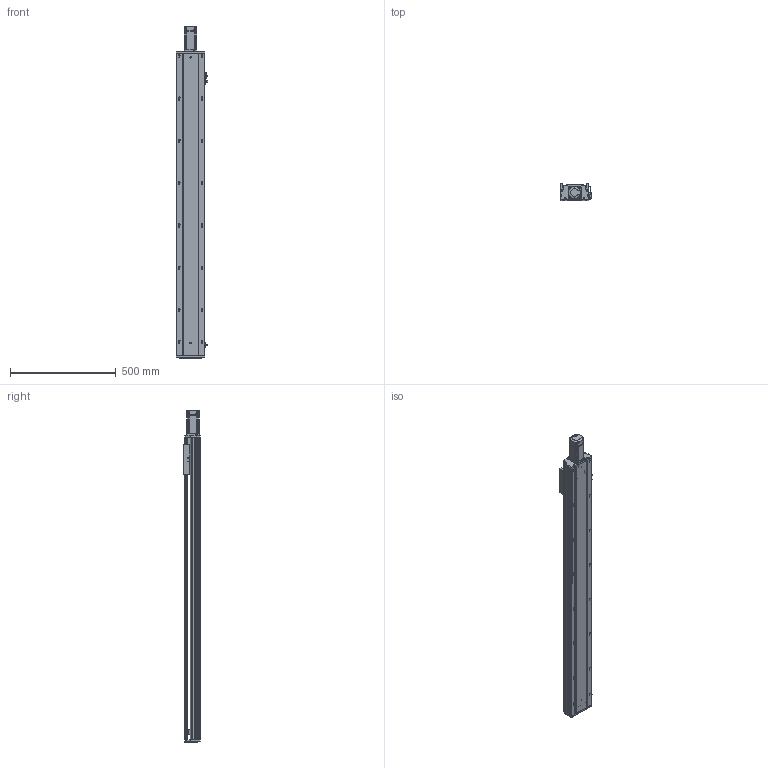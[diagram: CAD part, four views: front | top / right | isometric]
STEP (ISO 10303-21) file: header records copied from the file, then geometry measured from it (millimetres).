
FILE_DESCRIPTION (( 'STEP AP203' ), '1' );
FILE_NAME ('RY140Q-L2010-1000-MK.SLDASM_1200.step', '2021-05-27T07:34:38', ( '盈信电脑' ), ( '东莞市道滘镇水果街19号' ), 'SwSTEP 2.0', 'SolidWorks 2016', '' );
FILE_SCHEMA (( 'CONFIG_CONTROL_DESIGN' ));
Length unit declared in the file: millimetre
Products named in the file (13): 滅袉蝶18-15; 侂狟400W侜督萇儂; RY140ヶ裔啣; RY140Q-1000-MK倰第奻裔啣_1200; 15; 滅袉蝶18-10; RY120外置感应片(140共用）; RY140Q-1000-MK倰第菁釱_1200; RY140Q萇儂傷盓傅釱FK12(80.5酗M5); RY140綴裔啣; RY140Q-L2010-1000-MK.SLDASM_1200; RY140Q臏賑輸(20佪裝-J; 覜茼ん672
Assembly tree (15 placements, depth 3):
  RY140Q-L2010-1000-MK.SLDASM_1200
    RY140Q-1000-MK倰第菁釱_1200
    RY140Q臏賑輸(20佪裝-J
    RY140Q-1000-MK倰第奻裔啣_1200
    RY140ヶ裔啣
    侂狟400W侜督萇儂
      15
    RY140綴裔啣
    覜茼ん672  x3
    RY120外置感应片(140共用）
    RY140Q萇儂傷盓傅釱FK12(80.5酗M5)
    滅袉蝶18-10
    滅袉蝶18-15  x2
Bounding box: 148.7 x 78 x 1569.5 mm (x, y, z)
Volume: 4312991.5 mm3; surface area: 1600199.4 mm2
Topology: 14 solids, 14 shells, 2176 faces, 6019 edges, 3831 vertices
Faces by surface type: plane 1082, cylinder 782, cone 227, bspline 85
Entity records: 71639 total; most frequent: CARTESIAN_POINT 17122, ORIENTED_EDGE 11266, DIRECTION 10761, EDGE_CURVE 5633, VERTEX_POINT 3691, AXIS2_PLACEMENT_3D 3591, VECTOR 3579, LINE 3579
